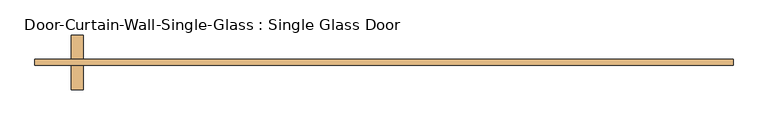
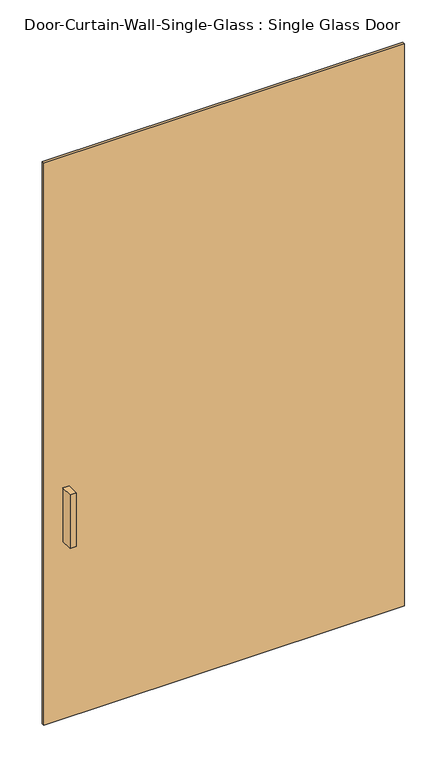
"""IFC4 building model written with IfcOpenShell, lengths in millimetres: door geometry, Door-Curtain-Wall-Single-Glass : Single Glass Door."""

import ifcopenshell
import ifcopenshell.guid

model = None  # the IFC model being written
_history = None  # IfcOwnerHistory: only IFC2X3 demands one
_inside = {}  # id of a spatial element -> (the spatial element, [elements in it])
_under = {}  # id of a project, library or spatial element -> (it, [spatial elements below it])
_declared = {}  # id of a project -> (the project, [libraries it declares])
_typed = {}  # id of a type object -> (the type object, [elements of that type])
_made_of = {}  # id of a material, layer set ... -> (it, [elements and type objects made of it])


def new_model(schema):
    """Start an empty IFC model of exactly this schema.

    Asked for "IFC4X3", IfcOpenShell would pick the latest addendum, in which some entities
    have other attributes; the version numbers below select the first issue.
    IFC2X3 requires an IfcOwnerHistory on every rooted entity: one is made here for all.
    """
    global model, _history
    if schema == "IFC4X3":
        model = ifcopenshell.file(schema_version=(4, 3, 0, 0))
    else:
        model = ifcopenshell.file(schema=schema)
    _inside.clear()
    _under.clear()
    _declared.clear()
    _typed.clear()
    _made_of.clear()
    _history = None
    if model.schema == "IFC2X3":
        org = make("IfcOrganization", Name="unknown")
        user = make(
            "IfcPersonAndOrganization",
            ThePerson=make("IfcPerson", FamilyName="unknown"),
            TheOrganization=org,
        )
        app = make(
            "IfcApplication",
            ApplicationDeveloper=org,
            Version="unknown",
            ApplicationFullName="unknown",
            ApplicationIdentifier="unknown",
        )
        _history = make(
            "IfcOwnerHistory",
            OwningUser=user,
            OwningApplication=app,
            ChangeAction="ADDED",
            CreationDate=0,
        )
    return model


def make(cls, **values):
    """One entity of the class cls with the attributes given. An attribute that is None is left unset."""
    return model.create_entity(
        cls, **{name: value for name, value in values.items() if value is not None}
    )


def rooted(cls, **values):
    """An entity with a GlobalId (a new one), such as an element, a storey or a relation."""
    return make(cls, GlobalId=ifcopenshell.guid.new(), OwnerHistory=_history, **values)


def si_unit(unit_type, name, prefix=None):
    """IfcSIUnit, for example si_unit("LENGTHUNIT", "METRE", prefix="MILLI")."""
    return make("IfcSIUnit", UnitType=unit_type, Prefix=prefix, Name=name)


def assignment(units):
    """IfcUnitAssignment: the units of a project."""
    return None if units is None else make("IfcUnitAssignment", Units=units)


def point(xyz):
    """IfcCartesianPoint."""
    return None if xyz is None else make("IfcCartesianPoint", Coordinates=xyz)


def direction(xyz):
    """IfcDirection."""
    return None if xyz is None else make("IfcDirection", DirectionRatios=xyz)


def frame(location, z_axis=None, x_axis=None):
    """IfcAxis2Placement3D, a coordinate frame: its origin and axes. An axis left out is left unset."""
    return make(
        "IfcAxis2Placement3D",
        Location=point(location),
        Axis=direction(z_axis),
        RefDirection=direction(x_axis),
    )


def origin():
    """The frame at (0, 0, 0) with its axes left unset."""
    return frame((0.0, 0.0, 0.0))


def origin_with_axes():
    """The frame at (0, 0, 0) with the z axis (0, 0, 1) and the x axis (1, 0, 0) written out."""
    return frame((0.0, 0.0, 0.0), z_axis=(0.0, 0.0, 1.0), x_axis=(1.0, 0.0, 0.0))


def place(relative_to, where):
    """IfcLocalPlacement: puts the frame where relative to a parent placement (None: the world)."""
    return make(
        "IfcLocalPlacement", PlacementRelTo=relative_to, RelativePlacement=where
    )


def context(
    kind, dimensions, precision=None, world=None, true_north=None, identifier=None
):
    """IfcGeometricRepresentationContext, for example the 3D "Model" context."""
    return make(
        "IfcGeometricRepresentationContext",
        ContextIdentifier=identifier,
        ContextType=kind,
        CoordinateSpaceDimension=dimensions,
        Precision=precision,
        WorldCoordinateSystem=world,
        TrueNorth=true_north,
    )


def project(units=None, contexts=None):
    """IfcProject with its units and contexts."""
    return rooted(
        "IfcProject",
        Name="project",
        RepresentationContexts=contexts,
        UnitsInContext=assignment(units),
    )


def spatial(cls, under=None, at=None, **own):
    """A site, building, storey or space (cls), placed at a placement, below another one or the project."""
    s = rooted(cls, ObjectPlacement=at, **own)
    if under is not None:
        _under.setdefault(under.id(), (under, []))[1].append(s)
    return s


def polyline(points):
    """IfcPolyline through the points."""
    return make("IfcPolyline", Points=[point(p) for p in points])


def outline(outer, holes=None, kind="AREA"):
    """IfcArbitraryClosedProfileDef: a profile drawn as a closed curve; with holes, ...WithVoids."""
    if holes is None:
        return make("IfcArbitraryClosedProfileDef", ProfileType=kind, OuterCurve=outer)
    return make(
        "IfcArbitraryProfileDefWithVoids",
        ProfileType=kind,
        OuterCurve=outer,
        InnerCurves=holes,
    )


def extrude(swept, where, along, depth):
    """IfcExtrudedAreaSolid: the profile swept, set in the frame where, extruded along a direction by depth."""
    return make(
        "IfcExtrudedAreaSolid",
        SweptArea=swept,
        Position=where,
        ExtrudedDirection=direction(along),
        Depth=depth,
    )


def shape(context_of_items, identifier, shape_type, items):
    """IfcShapeRepresentation: the items that make up one representation, for example the "Body"."""
    return make(
        "IfcShapeRepresentation",
        ContextOfItems=context_of_items,
        RepresentationIdentifier=identifier,
        RepresentationType=shape_type,
        Items=items,
    )


def source(mapping_origin, context_of_items, identifier, shape_type, items):
    """IfcRepresentationMap: a shape defined once, which mapped items show again and again."""
    return make(
        "IfcRepresentationMap",
        MappingOrigin=mapping_origin,
        MappedRepresentation=shape(context_of_items, identifier, shape_type, items),
    )


def transform(
    local_origin,
    x_axis=None,
    y_axis=None,
    z_axis=None,
    scale=None,
    scale2=None,
    scale3=None,
    uniform=True,
):
    """IfcCartesianTransformationOperator3D, or its non-uniform kind. x_axis, y_axis, z_axis: its Axis1, 2, 3."""
    if uniform:
        return make(
            "IfcCartesianTransformationOperator3D",
            Axis1=direction(x_axis),
            Axis2=direction(y_axis),
            LocalOrigin=point(local_origin),
            Scale=scale,
            Axis3=direction(z_axis),
        )
    return make(
        "IfcCartesianTransformationOperator3DnonUniform",
        Axis1=direction(x_axis),
        Axis2=direction(y_axis),
        LocalOrigin=point(local_origin),
        Scale=scale,
        Axis3=direction(z_axis),
        Scale2=scale2,
        Scale3=scale3,
    )


def mapped(mapping_source, mapping_target):
    """IfcMappedItem: shows the shape of a source again, moved by a transform."""
    return make(
        "IfcMappedItem", MappingSource=mapping_source, MappingTarget=mapping_target
    )


def made_of(thing, what):
    """Note that an element or type object is made of a material, layer set ...; save() writes the relation."""
    if what is not None:
        _made_of.setdefault(what.id(), (what, []))[1].append(thing)
    return thing


def element(
    cls,
    number,
    at=None,
    inside=None,
    cuts=None,
    type_object=None,
    material=None,
    context=None,
    identifier="Body",
    shape_type=None,
    held_by="IfcProductDefinitionShape",
    body=None,
    shapes=None,
    **own,
):
    """One element of the class cls, such as IfcWall. Its Tag is "e" and its number.

    at: its placement. inside: the storey or other place that contains it. cuts: it is an
    opening in that element (IfcRelVoidsElement). A single representation is given by context,
    identifier, shape_type and body (its items); several are given by shapes. held_by: the class
    of the entity that holds the representations. save() writes the other relations.
    """
    e = rooted(cls, Tag="e%d" % number, ObjectPlacement=at, **own)
    if body is not None:
        shapes = [shape(context, identifier, shape_type, body)]
    if shapes is not None:
        e.Representation = make(held_by, Representations=shapes)
    if inside is not None:
        _inside.setdefault(inside.id(), (inside, []))[1].append(e)
    if cuts is not None:
        rooted(
            "IfcRelVoidsElement", RelatingBuildingElement=cuts, RelatedOpeningElement=e
        )
    if type_object is not None:
        _typed.setdefault(type_object.id(), (type_object, []))[1].append(e)
    return made_of(e, material)


def aggregate(whole, parts):
    """IfcRelAggregates: a whole, such as a stair, and the parts it consists of."""
    return rooted("IfcRelAggregates", RelatingObject=whole, RelatedObjects=parts)


def save(model, path):
    """Write the relations noted so far, then the file.

    IfcRelAggregates (storeys below a building ...), IfcRelContainedInSpatialStructure (elements
    in a storey), IfcRelDefinesByType, IfcRelAssociatesMaterial and IfcRelDeclares: one each for
    every whole, place, type object, material and project.
    """
    for whole, parts in _under.values():
        aggregate(whole, parts)
    for where, things in _inside.values():
        rooted(
            "IfcRelContainedInSpatialStructure",
            RelatedElements=things,
            RelatingStructure=where,
        )
    for kind, things in _typed.values():
        rooted("IfcRelDefinesByType", RelatedObjects=things, RelatingType=kind)
    for what, things in _made_of.values():
        rooted("IfcRelAssociatesMaterial", RelatedObjects=things, RelatingMaterial=what)
    for by, libraries in _declared.values():
        rooted("IfcRelDeclares", RelatingContext=by, RelatedDefinitions=libraries)
    model.write(path)


def door_curtain_wall_single_glass_single_glass_door_c1f067f7(model_context):
    return source(origin(), model_context, "Body", "SweptSolid", [
        extrude(outline(polyline([(730.25, 50.8), (730.25, 38.1), (-730.25, 38.1), (-730.25, 50.8), (730.25, 50.8)])), origin_with_axes(), (0.0, 0.0, 1.0), 2406.65),
        extrude(outline(polyline([(-628.65, -12.7), (-654.05, -12.7), (-654.05, 38.1), (-628.65, 38.1), (-628.65, -12.7)])), frame((0.0, 0.0, 762.0), z_axis=(0.0, 0.0, 1.0), x_axis=(1.0, 0.0, 0.0)), (0.0, 0.0, 1.0), 228.6),
        extrude(outline(polyline([(-654.05, 101.6), (-628.65, 101.6), (-628.65, 50.8), (-654.05, 50.8), (-654.05, 101.6)])), frame((0.0, 0.0, 762.0), z_axis=(0.0, 0.0, 1.0), x_axis=(1.0, 0.0, 0.0)), (0.0, 0.0, 1.0), 228.6),
    ])


if __name__ == "__main__":
    model = new_model("IFC4")
    model_context = context("Model", 3, world=origin())
    ifc_project = project(units=[si_unit("LENGTHUNIT", "METRE", prefix="MILLI")], contexts=[model_context])
    site = spatial("IfcSite", under=ifc_project)
    building = spatial("IfcBuilding", under=site)
    placement = place(None, origin())
    door_curtain_wall_single_glass_single_glass_door_shape = door_curtain_wall_single_glass_single_glass_door_c1f067f7(model_context)
    element("IfcDoor", 1, ObjectType="Door-Curtain-Wall-Single-Glass : Single Glass Door", at=placement, inside=building, context=model_context, shape_type="MappedRepresentation", body=[
        mapped(door_curtain_wall_single_glass_single_glass_door_shape, transform((0.0, 0.0, 0.0), x_axis=(1.0, 0.0, 0.0), y_axis=(0.0, 1.0, 0.0), z_axis=(0.0, 0.0, 1.0))),
    ])
    save(model, "model.ifc")
